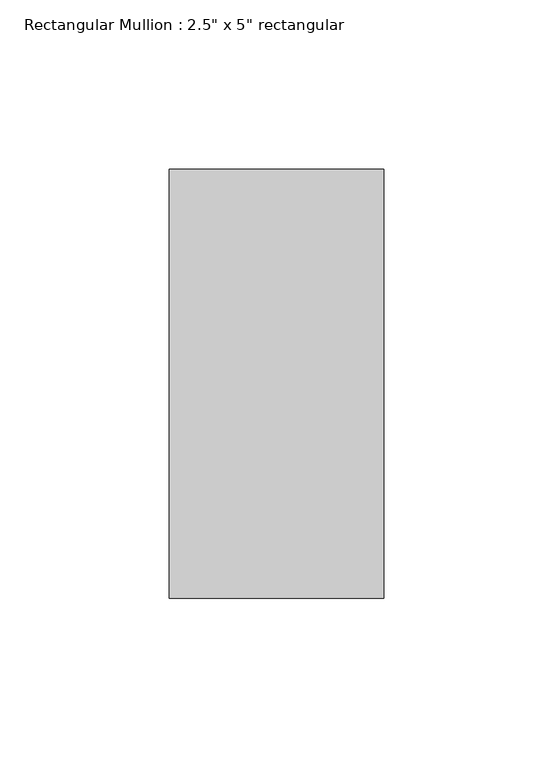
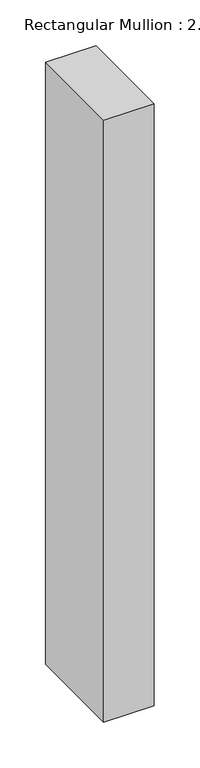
"""IFC4 building model written with IfcOpenShell, lengths in millimetres: member geometry."""

from ifc_helpers import new_model, si_unit, frame, origin, place, context, project, spatial, polyline, outline, extrude, source, transform, mapped, element, save


def member_5507c937(model_context):
    return source(origin(), model_context, "Body", "SweptSolid", [
        extrude(outline(polyline([(0.0, 63.5), (0.0, -63.5), (-63.5, -63.5), (-63.5, 63.5), (0.0, 63.5)])), frame((0.0, 0.0, -802.64), z_axis=(0.0, 0.0, 1.0), x_axis=(1.0, 0.0, 0.0)), (0.0, 0.0, 1.0), 802.64),
    ])


if __name__ == "__main__":
    model = new_model("IFC4")
    model_context = context("Model", 3, world=origin())
    ifc_project = project(units=[si_unit("LENGTHUNIT", "METRE", prefix="MILLI")], contexts=[model_context])
    site = spatial("IfcSite", under=ifc_project)
    building = spatial("IfcBuilding", under=site)
    placement = place(None, origin())
    member_shape = member_5507c937(model_context)
    element("IfcMember", 1, ObjectType="Rectangular Mullion : 2.5\" x 5\" rectangular", at=placement, inside=building, context=model_context, shape_type="MappedRepresentation", body=[
        mapped(member_shape, transform((0.0, 0.0, 0.0), x_axis=(1.0, 0.0, 0.0), y_axis=(0.0, 1.0, 0.0), z_axis=(0.0, 0.0, 1.0))),
    ])
    save(model, "model.ifc")
